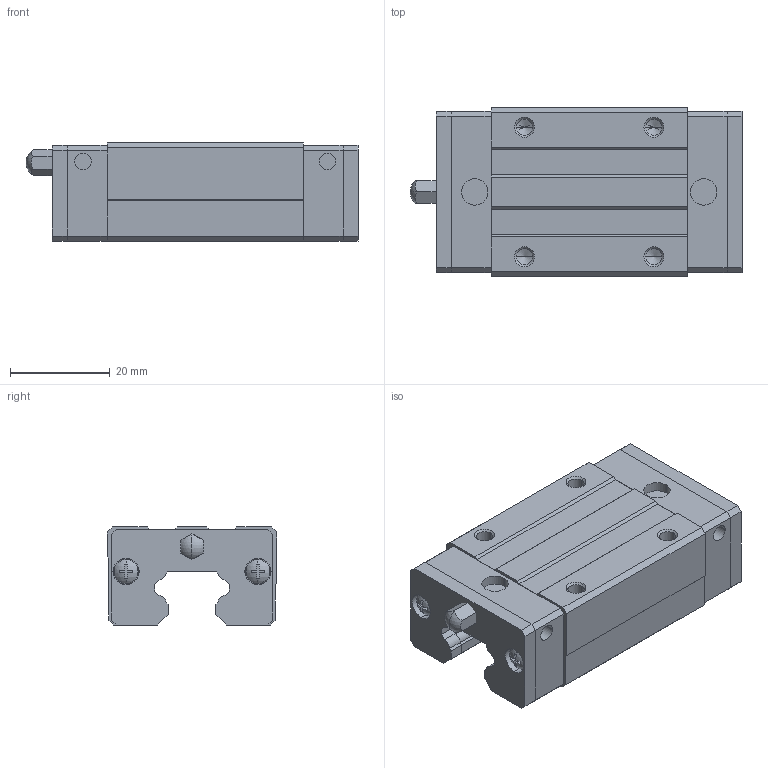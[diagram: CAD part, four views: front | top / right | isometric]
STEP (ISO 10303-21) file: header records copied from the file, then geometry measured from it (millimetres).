
FILE_DESCRIPTION(('starvars output'),'2;1');
FILE_NAME('cv20190625224034000109442.stp','22:40:35 2019/06/25',( 'Thomas Industrial Network Germany GmbH'),( 'Thomas Industrial Network Germany GmbH'),'unknown preprocess','ACIS' ,'unknown authorization');
FILE_SCHEMA(('CONFIG_CONTROL_DESIGN {UNKNOWN IMPLEMENTATION LEVEL}'));
Length unit declared in the file: millimetre
Products named in the file (10): PRODUCT_ID_1; PRODUCT_ID_2; PRODUCT_ID_3; PRODUCT_ID_4; PRODUCT_ID_5; PRODUCT_ID_6; PRODUCT_ID_7; PRODUCT_ID_8; PRODUCT_ID_9; PRODUCT_ID_10
Bounding box: 66.7 x 34 x 19.7 mm (x, y, z)
Volume: 31308.8 mm3; surface area: 13967 mm2
Topology: 10 solids, 10 shells, 323 faces, 827 edges, 536 vertices
Faces by surface type: plane 221, cylinder 60, cone 32, sphere 10
Entity records: 9768 total; most frequent: ORIENTED_EDGE 1638, CARTESIAN_POINT 1510, DIRECTION 1378, EDGE_CURVE 819, VECTOR 570, LINE 570, VERTEX_POINT 536, AXIS2_PLACEMENT_3D 404
